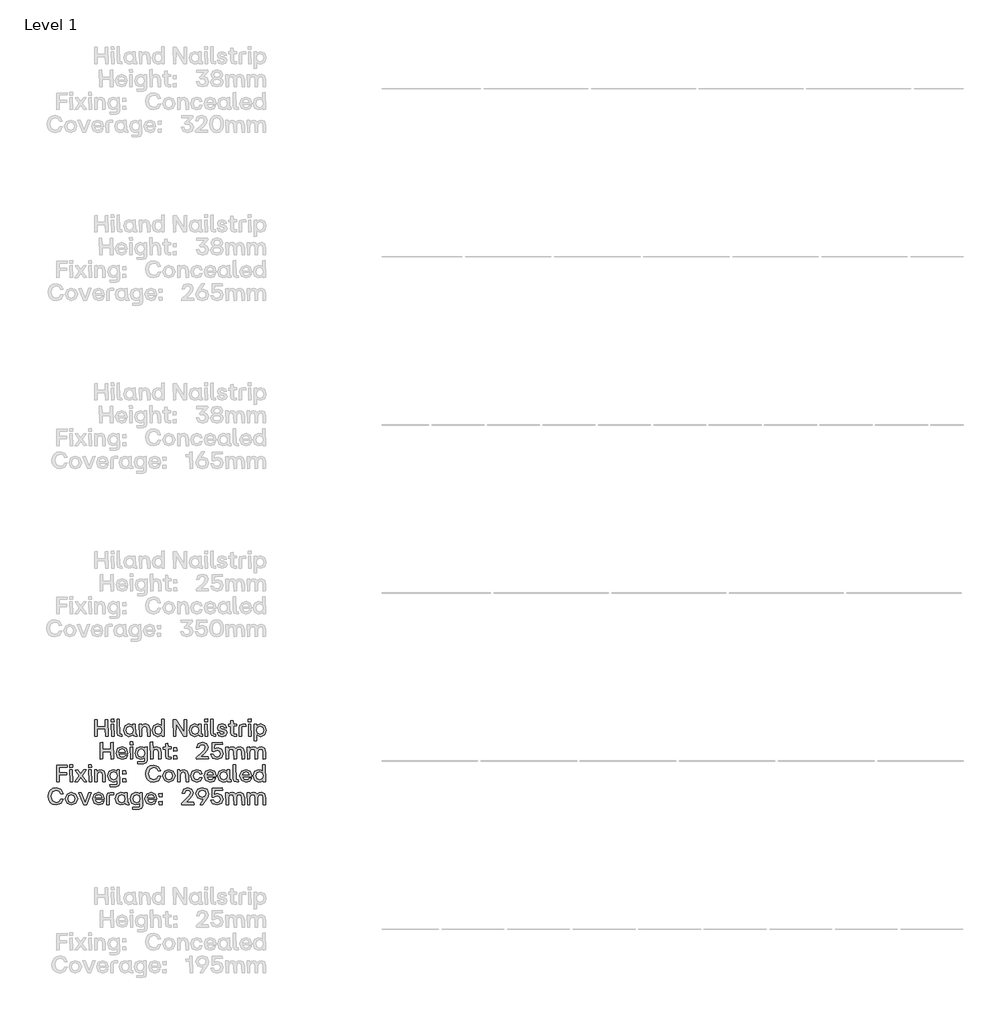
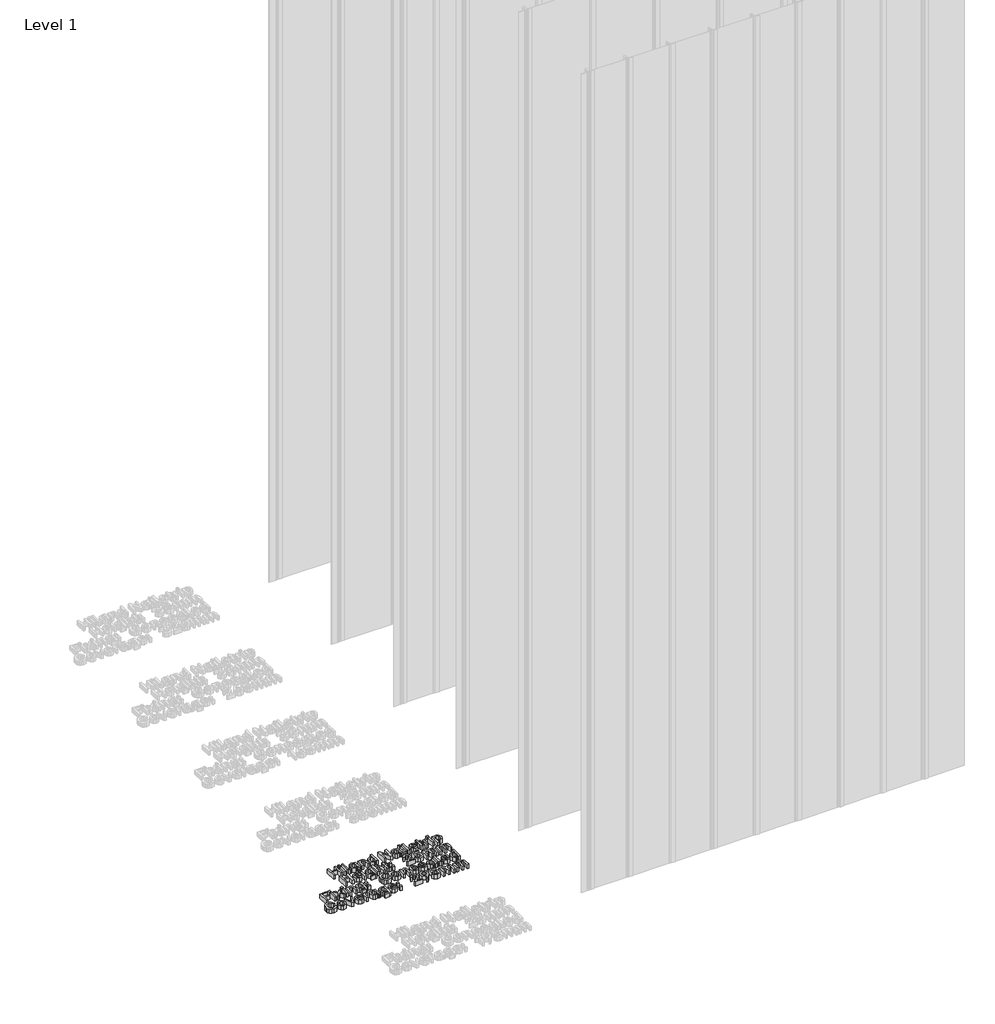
# One storey, part 9 of 64: 1 proxy.
"""IFC4 building model written with IfcOpenShell, lengths in millimetres."""

from ifc_helpers import new_model, si_unit, origin, origin_with_axes, place, context, project, spatial, polyline, outline, extrude, element, save

model = new_model("IFC4")

# Units and contexts
model_context = context("Model", 3, world=origin())
ifc_project = project(units=[si_unit("LENGTHUNIT", "METRE", prefix="MILLI")], contexts=[model_context])

# Site, building, storey
site = spatial("IfcSite", under=ifc_project)
building = spatial("IfcBuilding", under=site)
storey = spatial("IfcBuildingStorey", under=building, Name="Level 1", Elevation=0.0)

# Proxy
placement = place(None, origin())
element("IfcBuildingElementProxy", 1, Name="50mm", ObjectType="50mm", at=placement, inside=storey, context=model_context, shape_type="SweptSolid", body=[
    extrude(outline(polyline([(-779.9316481, -3933.5188866), (-780.6289799, -3911.5808277), (-804.4777279, -3911.5808277), (-804.4777279, -3932.8215548), (-811.9810183, -3933.5188866), (-812.7062434, -3884.2454206), (-805.2168997, -3883.5201955), (-804.4777279, -3904.6075096), (-780.6289799, -3904.6075096), (-780.6289799, -3884.2454206), (-773.1396362, -3883.5201955), (-772.4423044, -3932.8215548), (-779.9316481, -3933.5188866)])), origin_with_axes(), (0.0, 0.0, 1.0), 20.0),
    extrude(outline(polyline([(-762.3449397, -3933.5188866), (-763.0701648, -3897.8154977), (-755.8597538, -3897.1181659), (-755.162422, -3932.8215548), (-762.3449397, -3933.5188866)])), origin_with_axes(), (0.0, 0.0, 1.0), 20.0),
    extrude(outline(polyline([(-763.2793643, -3890.4516737), (-763.6280302, -3882.4044646), (-755.2321552, -3881.6652929), (-754.4929835, -3890.1030078), (-763.2793643, -3890.4516737)])), origin_with_axes(), (0.0, 0.0, 1.0), 20.0),
    extrude(outline(polyline([(-735.7626509, -3933.5188866), (-743.4611942, -3930.8690257), (-746.1110551, -3923.1565359), (-746.1110551, -3882.8228637), (-738.9006441, -3882.083692), (-738.2033123, -3927.2429003), (-731.5368201, -3927.2429003), (-730.8394883, -3932.8215548), (-735.7626509, -3933.5188866)])), origin_with_axes(), (0.0, 0.0, 1.0), 20.0),
    extrude(outline(polyline([(-710.6726522, -3933.9372857), (-722.4436133, -3928.8955767), (-726.8228571, -3915.3882594), (-722.4436133, -3901.7484491), (-710.6726522, -3896.6579269), (-704.0549733, -3898.2617901), (-699.0690509, -3902.6549805), (-698.7482782, -3897.8154977), (-691.5657605, -3897.1181659), (-690.8405354, -3927.2429003), (-686.8936374, -3927.2429003), (-686.1963056, -3932.8215548), (-692.1933592, -3933.5188866), (-696.848049, -3932.2113895), (-698.3996123, -3928.288898), (-703.7551206, -3932.3334225), (-710.6726522, -3933.9372857)]), holes=[polyline([(-718.7617013, -3915.3882594), (-716.0072406, -3924.2792401), (-708.4830304, -3927.521833), (-701.1192064, -3924.2931867), (-698.4693455, -3915.3882594), (-701.1401263, -3906.392679), (-708.4830304, -3903.1152195), (-716.0072406, -3906.392679), (-718.7617013, -3915.3882594)])]), origin_with_axes(), (0.0, 0.0, 1.0), 20.0),
    extrude(outline(polyline([(-679.3345605, -3933.5188866), (-680.0597856, -3897.8154977), (-673.1980405, -3897.1181659), (-672.5007087, -3902.6549805), (-667.3369666, -3898.1571903), (-660.7158011, -3896.6579269), (-651.1553819, -3900.8419178), (-647.8430558, -3913.0870644), (-647.8430558, -3932.8215548), (-655.0674134, -3933.5188866), (-655.7926384, -3913.0870644), (-657.7451675, -3905.7092939), (-663.9165541, -3903.3941522), (-670.1437272, -3905.7441604), (-672.1520428, -3913.0870644), (-672.1520428, -3932.8215548), (-679.3345605, -3933.5188866)])), origin_with_axes(), (0.0, 0.0, 1.0), 20.0),
    extrude(outline(polyline([(-624.9845189, -3933.9372857), (-636.7554799, -3928.8955767), (-641.1347237, -3915.3882594), (-636.7554799, -3901.7484491), (-624.9845189, -3896.6579269), (-618.36684, -3898.2617901), (-613.3809175, -3902.6549805), (-613.0601448, -3882.8228637), (-605.8776272, -3882.083692), (-605.1524021, -3932.8215548), (-612.0141471, -3933.5188866), (-612.7114789, -3928.0099653), (-618.0669873, -3932.3334225), (-624.9845189, -3933.9372857)]), holes=[polyline([(-633.0735679, -3915.3882594), (-630.3191073, -3924.2792401), (-622.794897, -3927.521833), (-615.431073, -3924.2931867), (-612.7812121, -3915.3882594), (-615.451993, -3906.392679), (-622.794897, -3903.1152195), (-630.3191073, -3906.392679), (-633.0735679, -3915.3882594)])]), origin_with_axes(), (0.0, 0.0, 1.0), 20.0),
    extrude(outline(polyline([(-578.1238209, -3933.5188866), (-578.849046, -3884.2454206), (-569.992932, -3883.5201955), (-546.7020494, -3920.7856077), (-546.4231166, -3884.2454206), (-539.2127057, -3883.5201955), (-538.5153739, -3932.8215548), (-547.329648, -3933.5188866), (-570.6205306, -3896.2395278), (-570.8994633, -3932.8215548), (-578.1238209, -3933.5188866)])), origin_with_axes(), (0.0, 0.0, 1.0), 20.0),
    extrude(outline(polyline([(-515.196598, -3933.9372857), (-526.967559, -3928.8955767), (-531.3468028, -3915.3882594), (-526.967559, -3901.7484491), (-515.196598, -3896.6579269), (-508.5789191, -3898.2617901), (-503.5929966, -3902.6549805), (-503.272224, -3897.8154977), (-496.0897063, -3897.1181659), (-495.3644812, -3927.2429003), (-491.4175831, -3927.2429003), (-490.7202513, -3932.8215548), (-496.7173049, -3933.5188866), (-501.3719948, -3932.2113895), (-502.923558, -3928.288898), (-508.2790664, -3932.3334225), (-515.196598, -3933.9372857)]), holes=[polyline([(-523.285647, -3915.3882594), (-520.5311864, -3924.2792401), (-513.0069761, -3927.521833), (-505.6431521, -3924.2931867), (-502.9932912, -3915.3882594), (-505.6640721, -3906.392679), (-513.0069761, -3903.1152195), (-520.5311864, -3906.392679), (-523.285647, -3915.3882594)])]), origin_with_axes(), (0.0, 0.0, 1.0), 20.0),
    extrude(outline(polyline([(-484.7929309, -3890.4516737), (-485.1415968, -3882.4044646), (-476.7457217, -3881.6652929), (-476.00655, -3890.1030078), (-484.7929309, -3890.4516737)])), origin_with_axes(), (0.0, 0.0, 1.0), 20.0),
    extrude(outline(polyline([(-483.8585062, -3933.5188866), (-484.5837313, -3897.8154977), (-477.3733204, -3897.1181659), (-476.6759885, -3932.8215548), (-483.8585062, -3933.5188866)])), origin_with_axes(), (0.0, 0.0, 1.0), 20.0),
    extrude(outline(polyline([(-457.2762175, -3933.5188866), (-464.9747607, -3930.8690257), (-467.6246216, -3923.1565359), (-467.6246216, -3882.8228637), (-460.4142106, -3882.083692), (-459.7168788, -3927.2429003), (-453.0503867, -3927.2429003), (-452.3530549, -3932.8215548), (-457.2762175, -3933.5188866)])), origin_with_axes(), (0.0, 0.0, 1.0), 20.0),
    extrude(outline(polyline([(-432.716191, -3933.9372857), (-443.4481276, -3930.9875721), (-447.9180245, -3922.5289372), (-440.9725996, -3921.7339789), (-437.890393, -3926.5455685), (-432.716191, -3927.8007657), (-428.2532673, -3926.6153017), (-426.579671, -3923.4354686), (-427.7790817, -3920.5764081), (-431.8375529, -3919.0841181), (-436.9280751, -3918.1775867), (-444.6545116, -3914.6351411), (-447.1509595, -3907.5363032), (-443.4899675, -3899.6215871), (-433.6227223, -3896.6579269), (-423.9298101, -3899.4123876), (-419.7039793, -3907.2294772), (-426.6494042, -3908.0244355), (-429.3968915, -3903.8613645), (-433.6227223, -3902.7944469), (-437.8764464, -3903.8962311), (-439.3408432, -3907.0900108), (-438.2948455, -3909.8584181), (-434.4874138, -3911.3716282), (-429.0482256, -3912.3897326), (-421.0358831, -3915.8763917), (-418.7695547, -3923.0170695), (-422.3956801, -3931.1130919), (-432.716191, -3933.9372857)])), origin_with_axes(), (0.0, 0.0, 1.0), 20.0),
    extrude(outline(polyline([(-396.9570155, -3933.5188866), (-404.6695054, -3930.8690257), (-407.3193663, -3923.1565359), (-407.3193663, -3903.3941522), (-413.5256194, -3903.3941522), (-414.2508445, -3897.8154977), (-407.3193663, -3897.1181659), (-407.3193663, -3887.104481), (-400.0950087, -3886.3792559), (-399.3976769, -3897.1181659), (-390.611296, -3897.1181659), (-389.8860709, -3902.6549805), (-399.3976769, -3903.3941522), (-399.3976769, -3927.2429003), (-390.611296, -3927.2429003), (-389.8860709, -3932.8215548), (-396.9570155, -3933.5188866)])), origin_with_axes(), (0.0, 0.0, 1.0), 20.0),
    extrude(outline(polyline([(-382.480407, -3933.5188866), (-383.1777388, -3907.4386768), (-380.5278779, -3899.7471068), (-372.8293347, -3897.1181659), (-362.6761835, -3897.1181659), (-361.9788517, -3903.1152195), (-375.2699961, -3903.8125513), (-375.2699961, -3932.8215548), (-382.480407, -3933.5188866)])), origin_with_axes(), (0.0, 0.0, 1.0), 20.0),
    extrude(outline(polyline([(-354.4337214, -3933.5188866), (-355.1589465, -3897.8154977), (-347.9485356, -3897.1181659), (-347.2512038, -3932.8215548), (-354.4337214, -3933.5188866)])), origin_with_axes(), (0.0, 0.0, 1.0), 20.0),
    extrude(outline(polyline([(-355.3681461, -3890.4516737), (-355.716812, -3882.4044646), (-347.3209369, -3881.6652929), (-346.5817652, -3890.1030078), (-355.3681461, -3890.4516737)])), origin_with_axes(), (0.0, 0.0, 1.0), 20.0),
    extrude(outline(polyline([(-337.4746117, -3947.0750171), (-338.1998368, -3897.8154977), (-331.3380917, -3897.1181659), (-330.6407599, -3902.5852473), (-325.2852516, -3898.2617901), (-318.36772, -3896.6579269), (-306.596759, -3901.7135826), (-302.2175152, -3915.2487931), (-306.596759, -3928.8607101), (-318.36772, -3933.9372857), (-324.9853989, -3932.3334225), (-329.9713214, -3927.9402321), (-330.292094, -3946.3776853), (-337.4746117, -3947.0750171)]), holes=[polyline([(-330.5710268, -3915.2487931), (-327.9002459, -3924.2443735), (-320.5573419, -3927.521833), (-313.0331316, -3924.2443735), (-310.2786709, -3915.2487931), (-313.0331316, -3906.3578124), (-320.5573419, -3903.1152195), (-327.9211659, -3906.3368925), (-330.5710268, -3915.2487931)])]), origin_with_axes(), (0.0, 0.0, 1.0), 20.0),
    extrude(outline(polyline([(-763.8651231, -4001.3705811), (-764.5624549, -3979.4325222), (-788.4112029, -3979.4325222), (-788.4112029, -4000.6732493), (-795.9144933, -4001.3705811), (-796.6397184, -3952.0971151), (-789.1503747, -3951.37189), (-788.4112029, -3972.459204), (-764.5624549, -3972.459204), (-764.5624549, -3952.0971151), (-757.0731112, -3951.37189), (-756.3757794, -4000.6732493), (-763.8651231, -4001.3705811)])), origin_with_axes(), (0.0, 0.0, 1.0), 20.0),
    extrude(outline(polyline([(-730.7279152, -4001.7889802), (-744.1306327, -3996.7472711), (-749.1374751, -3983.2399539), (-744.1515527, -3969.586197), (-730.7279152, -3964.5096214), (-718.447902, -3969.5164638), (-713.9501118, -3983.1702207), (-713.9501118, -3985.0809099), (-741.0065862, -3985.8200816), (-737.9383262, -3992.8631329), (-730.7279152, -3995.3735275), (-724.9400612, -3994.0974102), (-721.9415344, -3990.520098), (-714.8566431, -3989.9343393), (-719.5148197, -3998.6998002), (-730.7279152, -4001.7889802)]), holes=[polyline([(-740.936853, -3980.0322275), (-721.7323348, -3980.0322275), (-724.3752224, -3973.3866554), (-730.7279152, -3970.966914), (-737.8197798, -3973.2681089), (-740.936853, -3980.0322275)])]), origin_with_axes(), (0.0, 0.0, 1.0), 20.0),
    extrude(outline(polyline([(-707.0465268, -3958.3033682), (-707.3951927, -3950.2561591), (-698.9993177, -3949.5169873), (-698.2601459, -3957.9547023), (-707.0465268, -3958.3033682)])), origin_with_axes(), (0.0, 0.0, 1.0), 20.0),
    extrude(outline(polyline([(-706.1121022, -4001.3705811), (-706.8373273, -3965.6671922), (-699.6269163, -3964.9698603), (-698.9295845, -4000.6732493), (-706.1121022, -4001.3705811)])), origin_with_axes(), (0.0, 0.0, 1.0), 20.0),
    extrude(outline(polyline([(-684.4390294, -4014.9267115), (-685.1782011, -4009.348057), (-663.937474, -4008.6507252), (-663.937474, -3995.7919266), (-669.2441691, -4000.185117), (-675.8618481, -4001.7889802), (-687.6328091, -3996.7124045), (-692.0120529, -3983.1004875), (-687.6328091, -3969.565277), (-675.8618481, -3964.5096214), (-668.9443165, -3966.1134845), (-663.8677409, -3970.4369418), (-663.5888081, -3965.6671922), (-656.7549563, -3964.9698603), (-656.0297313, -4004.9269733), (-658.609859, -4012.3675038), (-666.0294695, -4014.9267115), (-684.4390294, -4014.9267115)]), holes=[polyline([(-683.9508971, -3983.1004875), (-681.1964364, -3992.0960679), (-673.6722262, -3995.3735275), (-666.3293222, -3992.0960679), (-663.6585413, -3983.1004875), (-666.3084022, -3974.1885869), (-673.6722262, -3970.966914), (-681.1964364, -3974.2095069), (-683.9508971, -3983.1004875)])]), origin_with_axes(), (0.0, 0.0, 1.0), 20.0),
    extrude(outline(polyline([(-646.3089258, -4001.3705811), (-647.0341508, -3950.6745581), (-639.8237399, -3949.9353864), (-639.1264081, -3970.2277422), (-634.0393725, -3965.9391516), (-627.6901663, -3964.5096214), (-618.1297471, -3968.6936122), (-614.817421, -3980.9387589), (-614.817421, -4000.6732493), (-622.0417786, -4001.3705811), (-622.7670037, -3980.9387589), (-624.7195328, -3973.5609883), (-630.8909193, -3971.2458467), (-637.1180924, -3973.5958549), (-639.1264081, -3980.9387589), (-639.1264081, -4000.6732493), (-646.3089258, -4001.3705811)])), origin_with_axes(), (0.0, 0.0, 1.0), 20.0),
    extrude(outline(polyline([(-591.540485, -4001.3705811), (-599.2529749, -3998.7207202), (-601.9028358, -3991.0082303), (-601.9028358, -3971.2458467), (-608.109089, -3971.2458467), (-608.834314, -3965.6671922), (-601.9028358, -3964.9698603), (-601.9028358, -3954.9561755), (-594.6784782, -3954.2309504), (-593.9811464, -3964.9698603), (-585.1947655, -3964.9698603), (-584.4695404, -3970.506675), (-593.9811464, -3971.2458467), (-593.9811464, -3995.0945947), (-585.1947655, -3995.0945947), (-584.4695404, -4000.6732493), (-591.540485, -4001.3705811)])), origin_with_axes(), (0.0, 0.0, 1.0), 20.0),
    extrude(outline(polyline([(-577.0638766, -3977.7310326), (-577.7612084, -3968.1078535), (-568.2774957, -3967.3686818), (-567.5522706, -3977.0337007), (-577.0638766, -3977.7310326)])), origin_with_axes(), (0.0, 0.0, 1.0), 20.0),
    extrude(outline(polyline([(-577.4125425, -4001.0219152), (-577.7612084, -3991.747402), (-568.2774957, -3991.0082303), (-567.5522706, -4000.6732493), (-577.4125425, -4001.0219152)])), origin_with_axes(), (0.0, 0.0, 1.0), 20.0),
    extrude(outline(polyline([(-509.5761036, -4001.3705811), (-510.3013286, -3996.5868848), (-492.9377665, -3980.590093), (-485.7901154, -3972.6753769), (-483.8027197, -3965.3882594), (-485.783142, -3959.7084918), (-491.7244091, -3957.8152359), (-498.5931275, -3959.8932847), (-501.4452146, -3966.4621504), (-508.8787717, -3967.1594822), (-504.2903284, -3954.9631488), (-491.7244091, -3950.9534909), (-479.8976615, -3954.8236824), (-475.5742043, -3965.3882594), (-478.2589318, -3975.1648515), (-487.4288451, -3985.5690422), (-496.8846645, -3994.0764903), (-474.1516474, -3994.355423), (-473.4543156, -4000.6732493), (-509.5761036, -4001.3705811)])), origin_with_axes(), (0.0, 0.0, 1.0), 20.0),
    extrude(outline(polyline([(-448.1969572, -4001.7889802), (-461.3974485, -3998.0931215), (-467.2062225, -3987.3821049), (-459.8423985, -3986.5871466), (-455.634001, -3993.0200326), (-448.1969572, -3994.9551284), (-440.7912934, -3992.2704009), (-438.197219, -3984.6625108), (-440.7773467, -3977.3614467), (-448.3364236, -3974.8719721), (-458.6987744, -3978.8049235), (-463.5382572, -3978.5259908), (-462.4922594, -3952.0971151), (-432.8556573, -3951.37189), (-432.1304322, -3957.6757696), (-455.8397139, -3958.3731014), (-456.6346722, -3971.0366471), (-451.4604701, -3968.8400519), (-445.7562959, -3968.0381203), (-434.2015077, -3972.4661774), (-429.9965969, -3984.6625108), (-434.8081864, -3997.27027), (-448.1969572, -4001.7889802)])), origin_with_axes(), (0.0, 0.0, 1.0), 20.0),
    extrude(outline(polyline([(-421.3775756, -4001.3705811), (-422.1028007, -3965.6671922), (-415.2410557, -3964.9698603), (-414.5437239, -3970.506675), (-409.5578014, -3966.0088848), (-403.1074821, -3964.5096214), (-396.8210358, -3966.0088848), (-392.605665, -3970.506675), (-386.7829443, -3966.0646713), (-379.5376668, -3964.5096214), (-370.2631536, -3968.6796656), (-367.0554273, -3980.9387589), (-367.0554273, -4000.6732493), (-374.2658383, -4001.3705811), (-374.9631701, -3980.9387589), (-376.845966, -3973.5609883), (-382.8151263, -3971.2458467), (-388.7215268, -3973.5958549), (-390.6252426, -3980.9387589), (-390.6252426, -4000.6732493), (-397.8356536, -4001.3705811), (-398.5329854, -3980.9387589), (-400.4018347, -3973.5609883), (-406.3152085, -3971.2458467), (-412.2913421, -3973.5958549), (-414.195058, -3980.9387589), (-414.195058, -4000.6732493), (-421.3775756, -4001.3705811)])), origin_with_axes(), (0.0, 0.0, 1.0), 20.0),
    extrude(outline(polyline([(-358.0040603, -4001.3705811), (-358.7292854, -3965.6671922), (-351.8675404, -3964.9698603), (-351.1702086, -3970.506675), (-346.1842861, -3966.0088848), (-339.7339668, -3964.5096214), (-333.4475205, -3966.0088848), (-329.2321497, -3970.506675), (-323.409429, -3966.0646713), (-316.1641515, -3964.5096214), (-306.8896383, -3968.6796656), (-303.681912, -3980.9387589), (-303.681912, -4000.6732493), (-310.8923229, -4001.3705811), (-311.5896548, -3980.9387589), (-313.4724507, -3973.5609883), (-319.441611, -3971.2458467), (-325.3480115, -3973.5958549), (-327.2517273, -3980.9387589), (-327.2517273, -4000.6732493), (-334.4621383, -4001.3705811), (-335.1594701, -3980.9387589), (-337.0283194, -3973.5609883), (-342.9416931, -3971.2458467), (-348.9178268, -3973.5958549), (-350.8215426, -3980.9387589), (-350.8215426, -4000.6732493), (-358.0040603, -4001.3705811)])), origin_with_axes(), (0.0, 0.0, 1.0), 20.0),
    extrude(outline(polyline([(-925.3392781, -4069.2222755), (-926.0645031, -4019.9488095), (-894.4753719, -4019.2235844), (-893.7780401, -4025.527464), (-917.8359877, -4026.2247958), (-917.8359877, -4041.287163), (-895.9118755, -4041.287163), (-895.2145437, -4047.5631494), (-917.8359877, -4048.3023211), (-917.8359877, -4068.5249437), (-925.3392781, -4069.2222755)])), origin_with_axes(), (0.0, 0.0, 1.0), 20.0),
    extrude(outline(polyline([(-885.5216314, -4069.2222755), (-886.2468565, -4033.5188866), (-879.0364456, -4032.8215548), (-878.3391137, -4068.5249437), (-885.5216314, -4069.2222755)])), origin_with_axes(), (0.0, 0.0, 1.0), 20.0),
    extrude(outline(polyline([(-886.4560561, -4026.1550627), (-886.804722, -4018.1078535), (-878.4088469, -4017.3686818), (-877.6696752, -4025.8063967), (-886.4560561, -4026.1550627)])), origin_with_axes(), (0.0, 0.0, 1.0), 20.0),
    extrude(outline(polyline([(-871.4215821, -4069.2222755), (-858.6604099, -4050.7429824), (-870.8637167, -4033.658353), (-862.8722941, -4032.8215548), (-854.0859132, -4044.815662), (-845.8573978, -4033.2399539), (-837.7404555, -4032.8215548), (-849.3440569, -4049.9340775), (-836.303952, -4068.3436374), (-844.2953746, -4069.2222755), (-854.0161801, -4055.7916648), (-863.2906932, -4068.8038764), (-871.4215821, -4069.2222755)])), origin_with_axes(), (0.0, 0.0, 1.0), 20.0),
    extrude(outline(polyline([(-829.2887939, -4069.2222755), (-830.014019, -4033.5188866), (-822.803608, -4032.8215548), (-822.1062762, -4068.5249437), (-829.2887939, -4069.2222755)])), origin_with_axes(), (0.0, 0.0, 1.0), 20.0),
    extrude(outline(polyline([(-830.2232185, -4026.1550627), (-830.5718844, -4018.1078535), (-822.1760094, -4017.3686818), (-821.4368377, -4025.8063967), (-830.2232185, -4026.1550627)])), origin_with_axes(), (0.0, 0.0, 1.0), 20.0),
    extrude(outline(polyline([(-812.3296842, -4069.2222755), (-813.0549093, -4033.5188866), (-806.1931642, -4032.8215548), (-805.4958324, -4038.3583694), (-800.3320903, -4033.8605792), (-793.7109247, -4032.3613158), (-784.1505056, -4036.5453067), (-780.8381794, -4048.7904534), (-780.8381794, -4068.5249437), (-788.062537, -4069.2222755), (-788.7877621, -4048.7904534), (-790.7402912, -4041.4126828), (-796.9116778, -4039.0975411), (-803.1388509, -4041.4475493), (-805.1471665, -4048.7904534), (-805.1471665, -4068.5249437), (-812.3296842, -4069.2222755)])), origin_with_axes(), (0.0, 0.0, 1.0), 20.0),
    extrude(outline(polyline([(-766.5568239, -4082.778406), (-767.2959956, -4077.1997515), (-746.0552685, -4076.5024197), (-746.0552685, -4063.643621), (-751.3619636, -4068.0368114), (-757.9796426, -4069.6406746), (-769.7506036, -4064.564099), (-774.1298474, -4050.952182), (-769.7506036, -4037.4169715), (-757.9796426, -4032.3613158), (-751.0621109, -4033.965179), (-745.9855353, -4038.2886362), (-745.7066026, -4033.5188866), (-738.8727508, -4032.8215548), (-738.1475257, -4072.7786678), (-740.7276535, -4080.2191982), (-748.147264, -4082.778406), (-766.5568239, -4082.778406)]), holes=[polyline([(-766.0686916, -4050.952182), (-763.3142309, -4059.9477624), (-755.7900207, -4063.2252219), (-748.4471166, -4059.9477624), (-745.7763358, -4050.952182), (-748.4261967, -4042.0402814), (-755.7900207, -4038.8186084), (-763.3142309, -4042.0612013), (-766.0686916, -4050.952182)])]), origin_with_axes(), (0.0, 0.0, 1.0), 20.0),
    extrude(outline(polyline([(-728.8032794, -4045.582727), (-729.5006112, -4035.959548), (-720.0168986, -4035.2203762), (-719.2916735, -4044.8853952), (-728.8032794, -4045.582727)])), origin_with_axes(), (0.0, 0.0, 1.0), 20.0),
    extrude(outline(polyline([(-729.1519453, -4068.8736096), (-729.5006112, -4059.5990965), (-720.0168986, -4058.8599248), (-719.2916735, -4068.5249437), (-729.1519453, -4068.8736096)])), origin_with_axes(), (0.0, 0.0, 1.0), 20.0),
    extrude(outline(polyline([(-637.0483593, -4069.6406746), (-647.0550708, -4067.9269817), (-654.7605874, -4062.7859029), (-659.6767766, -4054.7160305), (-661.3155064, -4044.2159567), (-659.66283, -4033.8919591), (-654.7048008, -4025.7924501), (-646.9853376, -4020.5520015), (-637.0483593, -4018.8051853), (-622.8716035, -4023.4215219), (-615.9192053, -4035.7085085), (-623.2411893, -4036.5174134), (-628.4049314, -4028.3272513), (-637.0483593, -4025.8063967), (-648.7077472, -4030.743506), (-652.9475246, -4044.2159567), (-648.7286672, -4057.7999804), (-637.0483593, -4062.6673565), (-628.2340851, -4060.1813685), (-623.5480153, -4052.7234048), (-616.1284048, -4052.0679129), (-622.5926707, -4065.0382846), (-637.0483593, -4069.6406746)])), origin_with_axes(), (0.0, 0.0, 1.0), 20.0),
    extrude(outline(polyline([(-591.693898, -4069.6406746), (-604.8525494, -4064.5152858), (-609.8942584, -4051.0916483), (-604.8386027, -4037.5564378), (-591.693898, -4032.3613158), (-578.4236736, -4037.5564378), (-573.3540713, -4051.0916483), (-578.4236736, -4064.5152858), (-591.693898, -4069.6406746)]), holes=[polyline([(-601.8331026, -4051.0916483), (-599.1344285, -4059.9965756), (-591.693898, -4063.2252219), (-584.1557411, -4059.982629), (-581.4012805, -4051.0916483), (-584.1417945, -4042.0960679), (-591.693898, -4038.8186084), (-599.1344285, -4042.0960679), (-601.8331026, -4051.0916483)])]), origin_with_axes(), (0.0, 0.0, 1.0), 20.0),
    extrude(outline(polyline([(-565.083716, -4069.2222755), (-565.8089411, -4033.5188866), (-558.947196, -4032.8215548), (-558.2498642, -4038.3583694), (-553.0861221, -4033.8605792), (-546.4649565, -4032.3613158), (-536.9045374, -4036.5453067), (-533.5922113, -4048.7904534), (-533.5922113, -4068.5249437), (-540.8165689, -4069.2222755), (-541.5417939, -4048.7904534), (-543.494323, -4041.4126828), (-549.6657096, -4039.0975411), (-555.8928827, -4041.4475493), (-557.9011983, -4048.7904534), (-557.9011983, -4068.5249437), (-565.083716, -4069.2222755)])), origin_with_axes(), (0.0, 0.0, 1.0), 20.0),
    extrude(outline(polyline([(-508.5440525, -4069.6406746), (-521.8770368, -4064.5989656), (-526.8838792, -4051.0916483), (-521.8073036, -4037.5564378), (-508.5440525, -4032.3613158), (-497.4704233, -4035.7991616), (-492.2543813, -4044.8853952), (-499.2695393, -4045.6524602), (-502.8398782, -4040.3527384), (-508.5440525, -4038.8186084), (-516.1031293, -4042.0960679), (-518.8227234, -4051.0916483), (-516.0891827, -4060.0174956), (-508.5440525, -4063.2252219), (-502.6655453, -4061.7608251), (-499.6879384, -4057.0189688), (-492.6030472, -4056.3495302), (-497.2612237, -4066.2028288), (-508.5440525, -4069.6406746)])), origin_with_axes(), (0.0, 0.0, 1.0), 20.0),
    extrude(outline(polyline([(-468.3080068, -4069.6406746), (-481.7107242, -4064.5989656), (-486.7175667, -4051.0916483), (-481.7316442, -4037.4378914), (-468.3080068, -4032.3613158), (-456.0279935, -4037.3681582), (-451.5302033, -4051.0219152), (-451.5302033, -4052.9326043), (-478.5866777, -4053.6717761), (-475.5184177, -4060.7148274), (-468.3080068, -4063.2252219), (-462.5201527, -4061.9491047), (-459.5216259, -4058.3717925), (-452.4367347, -4057.7860338), (-457.0949112, -4066.5514947), (-468.3080068, -4069.6406746)]), holes=[polyline([(-478.5169445, -4047.883922), (-459.3124264, -4047.883922), (-461.9553139, -4041.2383498), (-468.3080068, -4038.8186084), (-475.3998713, -4041.1198034), (-478.5169445, -4047.883922)])]), origin_with_axes(), (0.0, 0.0, 1.0), 20.0),
    extrude(outline(polyline([(-430.4010493, -4069.6406746), (-442.1720104, -4064.5989656), (-446.5512542, -4051.0916483), (-442.1720104, -4037.4518381), (-430.4010493, -4032.3613158), (-423.7833704, -4033.965179), (-418.7974479, -4038.3583694), (-418.4766753, -4033.5188866), (-411.2941576, -4032.8215548), (-410.5689325, -4062.9462892), (-406.6220345, -4062.9462892), (-405.9247026, -4068.5249437), (-411.9217562, -4069.2222755), (-416.5764461, -4067.9147784), (-418.1280094, -4063.9922869), (-423.4835177, -4068.0368114), (-430.4010493, -4069.6406746)]), holes=[polyline([(-438.4900984, -4051.0916483), (-435.7356377, -4059.982629), (-428.2114274, -4063.2252219), (-420.8476035, -4059.9965756), (-418.1977426, -4051.0916483), (-420.8685234, -4042.0960679), (-428.2114274, -4038.8186084), (-435.7356377, -4042.0960679), (-438.4900984, -4051.0916483)])]), origin_with_axes(), (0.0, 0.0, 1.0), 20.0),
    extrude(outline(polyline([(-389.4397785, -4069.2222755), (-397.1383218, -4066.5724146), (-399.7881827, -4058.8599248), (-399.7881827, -4018.5262526), (-392.5777717, -4017.7870809), (-391.8804399, -4062.9462892), (-385.2139477, -4062.9462892), (-384.5166159, -4068.5249437), (-389.4397785, -4069.2222755)])), origin_with_axes(), (0.0, 0.0, 1.0), 20.0),
    extrude(outline(polyline([(-362.0904248, -4069.6406746), (-375.4931422, -4064.5989656), (-380.4999847, -4051.0916483), (-375.5140622, -4037.4378914), (-362.0904248, -4032.3613158), (-349.8104115, -4037.3681582), (-345.3126213, -4051.0219152), (-345.3126213, -4052.9326043), (-372.3690957, -4053.6717761), (-369.3008357, -4060.7148274), (-362.0904248, -4063.2252219), (-356.3025707, -4061.9491047), (-353.3040439, -4058.3717925), (-346.2191527, -4057.7860338), (-350.8773292, -4066.5514947), (-362.0904248, -4069.6406746)]), holes=[polyline([(-372.2993625, -4047.883922), (-353.0948444, -4047.883922), (-355.7377319, -4041.2383498), (-362.0904248, -4038.8186084), (-369.1822893, -4041.1198034), (-372.2993625, -4047.883922)])]), origin_with_axes(), (0.0, 0.0, 1.0), 20.0),
    extrude(outline(polyline([(-324.1834673, -4069.6406746), (-335.9544284, -4064.5989656), (-340.3336722, -4051.0916483), (-335.9544284, -4037.4518381), (-324.1834673, -4032.3613158), (-317.5657884, -4033.965179), (-312.5798659, -4038.3583694), (-312.2590933, -4018.5262526), (-305.0765756, -4017.7870809), (-304.3513505, -4068.5249437), (-311.2130956, -4069.2222755), (-311.9104274, -4063.7133542), (-317.2659357, -4068.0368114), (-324.1834673, -4069.6406746)]), holes=[polyline([(-332.2725164, -4051.0916483), (-329.5180557, -4059.982629), (-321.9938454, -4063.2252219), (-314.6300215, -4059.9965756), (-311.9801606, -4051.0916483), (-314.6509414, -4042.0960679), (-321.9938454, -4038.8186084), (-329.5180557, -4042.0960679), (-332.2725164, -4051.0916483)])]), origin_with_axes(), (0.0, 0.0, 1.0), 20.0),
    extrude(outline(polyline([(-927.1383941, -4137.4923691), (-937.1451057, -4135.7786761), (-944.8506222, -4130.6375973), (-949.7668115, -4122.5677249), (-951.4055413, -4112.0676511), (-949.7528649, -4101.7436536), (-944.7948357, -4093.6441446), (-937.0753725, -4088.403696), (-927.1383941, -4086.6568798), (-912.9616383, -4091.2732164), (-906.0092402, -4103.560203), (-913.3312242, -4104.3691079), (-918.4949663, -4096.1789457), (-927.1383941, -4093.6580912), (-938.7977821, -4098.5952004), (-943.0375595, -4112.0676511), (-938.818702, -4125.6516749), (-927.1383941, -4130.5190509), (-918.32412, -4128.033063), (-913.6380502, -4120.5750992), (-906.2184397, -4119.9196073), (-912.6827056, -4132.8899791), (-927.1383941, -4137.4923691)])), origin_with_axes(), (0.0, 0.0, 1.0), 20.0),
    extrude(outline(polyline([(-881.7839329, -4137.4923691), (-894.9425843, -4132.3669802), (-899.9842933, -4118.9433428), (-894.9286376, -4105.4081323), (-881.7839329, -4100.2130103), (-868.5137085, -4105.4081323), (-863.4441062, -4118.9433428), (-868.5137085, -4132.3669802), (-881.7839329, -4137.4923691)]), holes=[polyline([(-891.9231375, -4118.9433428), (-889.2244634, -4127.8482701), (-881.7839329, -4131.0769164), (-874.245776, -4127.8343234), (-871.4913153, -4118.9433428), (-874.2318294, -4109.9477624), (-881.7839329, -4106.6703029), (-889.2244634, -4109.9477624), (-891.9231375, -4118.9433428)])]), origin_with_axes(), (0.0, 0.0, 1.0), 20.0),
    extrude(outline(polyline([(-845.3413723, -4137.07397), (-859.7343009, -4101.5100474), (-852.4820501, -4100.6732493), (-841.0458083, -4130.5887841), (-830.2092719, -4101.2311147), (-822.8454479, -4100.6732493), (-835.9552861, -4136.5161045), (-845.3413723, -4137.07397)])), origin_with_axes(), (0.0, 0.0, 1.0), 20.0),
    extrude(outline(polyline([(-800.3495236, -4137.4923691), (-813.7522411, -4132.45066), (-818.7590835, -4118.9433428), (-813.773161, -4105.2895859), (-800.3495236, -4100.2130103), (-788.0695104, -4105.2198527), (-783.5717201, -4118.8736096), (-783.5717201, -4120.7842988), (-810.6281946, -4121.5234705), (-807.5599346, -4128.5665218), (-800.3495236, -4131.0769164), (-794.5616695, -4129.8007992), (-791.5631427, -4126.2234869), (-784.4782515, -4125.6377282), (-789.136428, -4134.4031891), (-800.3495236, -4137.4923691)]), holes=[polyline([(-810.5584614, -4115.7356165), (-791.3539432, -4115.7356165), (-793.9968308, -4109.0900443), (-800.3495236, -4106.6703029), (-807.4413882, -4108.9714978), (-810.5584614, -4115.7356165)])]), origin_with_axes(), (0.0, 0.0, 1.0), 20.0),
    extrude(outline(polyline([(-776.1102697, -4137.07397), (-776.8076015, -4110.9937601), (-774.1577406, -4103.3021902), (-766.4591974, -4100.6732493), (-756.3060462, -4100.6732493), (-755.6087144, -4106.6703029), (-768.8998588, -4107.3676347), (-768.8998588, -4136.3766382), (-776.1102697, -4137.07397)])), origin_with_axes(), (0.0, 0.0, 1.0), 20.0),
    extrude(outline(polyline([(-734.7724398, -4137.4923691), (-746.5434008, -4132.45066), (-750.9226446, -4118.9433428), (-746.5434008, -4105.3035325), (-734.7724398, -4100.2130103), (-728.1547608, -4101.8168734), (-723.1688384, -4106.2100639), (-722.8480657, -4101.3705811), (-715.665548, -4100.6732493), (-714.940323, -4130.7979836), (-710.9934249, -4130.7979836), (-710.2960931, -4136.3766382), (-716.2931467, -4137.07397), (-720.9478365, -4135.7664728), (-722.4993998, -4131.8439814), (-727.8549082, -4135.8885059), (-734.7724398, -4137.4923691)]), holes=[polyline([(-742.8614888, -4118.9433428), (-740.1070281, -4127.8343234), (-732.5828179, -4131.0769164), (-725.2189939, -4127.8482701), (-722.569133, -4118.9433428), (-725.2399139, -4109.9477624), (-732.5828179, -4106.6703029), (-740.1070281, -4109.9477624), (-742.8614888, -4118.9433428)])]), origin_with_axes(), (0.0, 0.0, 1.0), 20.0),
    extrude(outline(polyline([(-698.7203849, -4150.6301005), (-699.4595567, -4145.0514459), (-678.2188296, -4144.3541141), (-678.2188296, -4131.4953155), (-683.5255247, -4135.8885059), (-690.1432036, -4137.4923691), (-701.9141647, -4132.4157935), (-706.2934085, -4118.8038764), (-701.9141647, -4105.2686659), (-690.1432036, -4100.2130103), (-683.225672, -4101.8168734), (-678.1490964, -4106.1403307), (-677.8701637, -4101.3705811), (-671.0363119, -4100.6732493), (-670.3110868, -4140.6303622), (-672.8912145, -4148.0708927), (-680.310825, -4150.6301005), (-698.7203849, -4150.6301005)]), holes=[polyline([(-698.2322527, -4118.8038764), (-695.477792, -4127.7994568), (-687.9535817, -4131.0769164), (-680.6106777, -4127.7994568), (-677.9398969, -4118.8038764), (-680.5897578, -4109.8919758), (-687.9535817, -4106.6703029), (-695.477792, -4109.9128958), (-698.2322527, -4118.8038764)])]), origin_with_axes(), (0.0, 0.0, 1.0), 20.0),
    extrude(outline(polyline([(-645.0397819, -4137.4923691), (-658.4424993, -4132.45066), (-663.4493418, -4118.9433428), (-658.4634193, -4105.2895859), (-645.0397819, -4100.2130103), (-632.7597686, -4105.2198527), (-628.2619784, -4118.8736096), (-628.2619784, -4120.7842988), (-655.3184528, -4121.5234705), (-652.2501928, -4128.5665218), (-645.0397819, -4131.0769164), (-639.2519278, -4129.8007992), (-636.253401, -4126.2234869), (-629.1685098, -4125.6377282), (-633.8266863, -4134.4031891), (-645.0397819, -4137.4923691)]), holes=[polyline([(-655.2487196, -4115.7356165), (-636.0442015, -4115.7356165), (-638.687089, -4109.0900443), (-645.0397819, -4106.6703029), (-652.1316464, -4108.9714978), (-655.2487196, -4115.7356165)])]), origin_with_axes(), (0.0, 0.0, 1.0), 20.0),
    extrude(outline(polyline([(-620.800528, -4113.4344215), (-621.4978598, -4103.8112424), (-612.0141471, -4103.0720707), (-611.288922, -4112.7370896), (-620.800528, -4113.4344215)])), origin_with_axes(), (0.0, 0.0, 1.0), 20.0),
    extrude(outline(polyline([(-621.1491939, -4136.7253041), (-621.4978598, -4127.4507909), (-612.0141471, -4126.7116192), (-611.288922, -4136.3766382), (-621.1491939, -4136.7253041)])), origin_with_axes(), (0.0, 0.0, 1.0), 20.0),
    extrude(outline(polyline([(-553.312755, -4137.07397), (-554.0379801, -4132.2902737), (-536.6744179, -4116.2934819), (-529.5267668, -4108.3787658), (-527.5393711, -4101.0916483), (-529.5197935, -4095.4118807), (-535.4610605, -4093.5186248), (-542.3297789, -4095.5966736), (-545.181866, -4102.1655393), (-552.6154232, -4102.8628712), (-548.0269798, -4090.6665377), (-535.4610605, -4086.6568798), (-523.6343129, -4090.5270714), (-519.3108557, -4101.0916483), (-521.9955832, -4110.8682404), (-531.1654965, -4121.2724311), (-540.6213159, -4129.7798792), (-517.8882988, -4130.0588119), (-517.190967, -4136.3766382), (-553.312755, -4137.07397)])), origin_with_axes(), (0.0, 0.0, 1.0), 20.0),
    extrude(outline(polyline([(-506.3544306, -4091.1895366), (-492.4217409, -4086.6568798), (-478.5099712, -4091.1895366), (-473.5240487, -4103.8112424), (-475.2673783, -4112.5069701), (-480.8181395, -4122.3602687), (-490.8597177, -4136.6555709), (-499.1579662, -4137.07397), (-487.7914577, -4119.3617419), (-494.8624023, -4120.7842988), (-506.8425628, -4116.1470422), (-511.361273, -4103.8112424), (-506.3544306, -4091.1895366)]), holes=[polyline([(-500.3713236, -4096.2103256), (-503.1606509, -4103.8042691), (-500.3713236, -4111.4051859), (-492.4217409, -4114.0899134), (-484.597678, -4111.3912392), (-481.7246709, -4103.8112424), (-484.4930782, -4096.2033523), (-492.4217409, -4093.5186248), (-500.3713236, -4096.2103256)])]), origin_with_axes(), (0.0, 0.0, 1.0), 20.0),
    extrude(outline(polyline([(-448.1969572, -4137.4923691), (-461.3974485, -4133.7965104), (-467.2062225, -4123.0854938), (-459.8423985, -4122.2905355), (-455.634001, -4128.7234215), (-448.1969572, -4130.6585173), (-440.7912934, -4127.9737898), (-438.197219, -4120.3658997), (-440.7773467, -4113.0648356), (-448.3364236, -4110.575361), (-458.6987744, -4114.5083125), (-463.5382572, -4114.2293797), (-462.4922594, -4087.800504), (-432.8556573, -4087.0752789), (-432.1304322, -4093.3791585), (-455.8397139, -4094.0764903), (-456.6346722, -4106.740036), (-451.4604701, -4104.5434408), (-445.7562959, -4103.7415092), (-434.2015077, -4108.1695663), (-429.9965969, -4120.3658997), (-434.8081864, -4132.9736589), (-448.1969572, -4137.4923691)])), origin_with_axes(), (0.0, 0.0, 1.0), 20.0),
    extrude(outline(polyline([(-421.3775756, -4137.07397), (-422.1028007, -4101.3705811), (-415.2410557, -4100.6732493), (-414.5437239, -4106.2100639), (-409.5578014, -4101.7122737), (-403.1074821, -4100.2130103), (-396.8210358, -4101.7122737), (-392.605665, -4106.2100639), (-386.7829443, -4101.7680602), (-379.5376668, -4100.2130103), (-370.2631536, -4104.3830545), (-367.0554273, -4116.6421478), (-367.0554273, -4136.3766382), (-374.2658383, -4137.07397), (-374.9631701, -4116.6421478), (-376.845966, -4109.2643772), (-382.8151263, -4106.9492356), (-388.7215268, -4109.2992438), (-390.6252426, -4116.6421478), (-390.6252426, -4136.3766382), (-397.8356536, -4137.07397), (-398.5329854, -4116.6421478), (-400.4018347, -4109.2643772), (-406.3152085, -4106.9492356), (-412.2913421, -4109.2992438), (-414.195058, -4116.6421478), (-414.195058, -4136.3766382), (-421.3775756, -4137.07397)])), origin_with_axes(), (0.0, 0.0, 1.0), 20.0),
    extrude(outline(polyline([(-358.0040603, -4137.07397), (-358.7292854, -4101.3705811), (-351.8675404, -4100.6732493), (-351.1702086, -4106.2100639), (-346.1842861, -4101.7122737), (-339.7339668, -4100.2130103), (-333.4475205, -4101.7122737), (-329.2321497, -4106.2100639), (-323.409429, -4101.7680602), (-316.1641515, -4100.2130103), (-306.8896383, -4104.3830545), (-303.681912, -4116.6421478), (-303.681912, -4136.3766382), (-310.8923229, -4137.07397), (-311.5896548, -4116.6421478), (-313.4724507, -4109.2643772), (-319.441611, -4106.9492356), (-325.3480115, -4109.2992438), (-327.2517273, -4116.6421478), (-327.2517273, -4136.3766382), (-334.4621383, -4137.07397), (-335.1594701, -4116.6421478), (-337.0283194, -4109.2643772), (-342.9416931, -4106.9492356), (-348.9178268, -4109.2992438), (-350.8215426, -4116.6421478), (-350.8215426, -4136.3766382), (-358.0040603, -4137.07397)])), origin_with_axes(), (0.0, 0.0, 1.0), 20.0),
])

save(model, "model.ifc")
